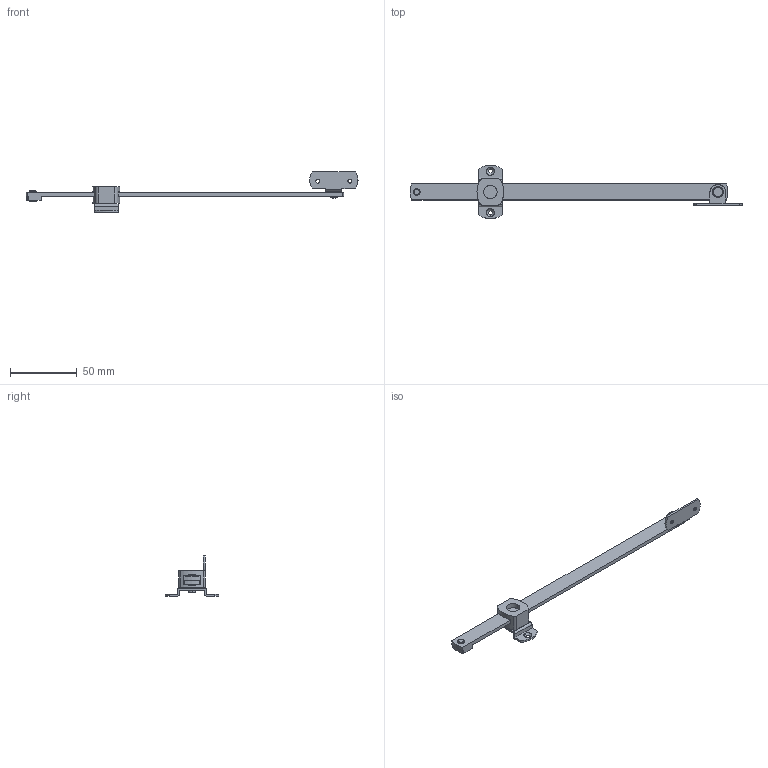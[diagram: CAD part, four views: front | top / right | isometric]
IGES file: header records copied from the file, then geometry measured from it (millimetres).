
Start section: SolidWorks IGES FILE using analytic representation for surfaces
Global section: file name: \\Ls-wvld1d\share\シブタニ\3D設計\ダンパー・ステー\EDS-32-2\EDS-32-2.IGS,41HSolidWorks; native system: 2003 by SolidWorks Corporation; preprocessor: Version 5.3; author: user; date: 130708.112935; units: millimetre
Bounding box: 248 x 40 x 30.1 mm (x, y, z)
Surface area: 12839.4 mm2 (no closed solid volume)
Topology: 0 solids, 0 shells, 112 faces, 1694 edges, 1694 vertices
Faces by surface type: revolution 66, bspline 46
